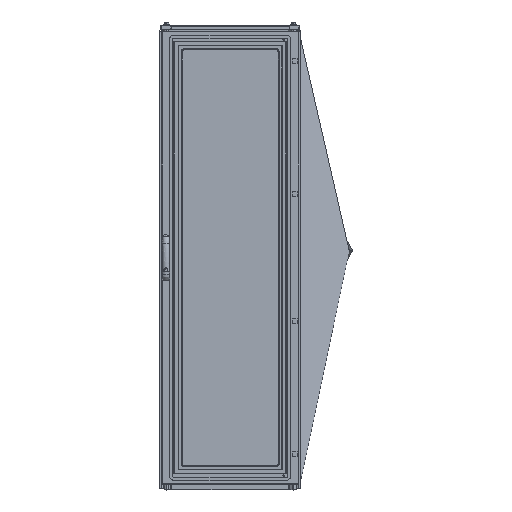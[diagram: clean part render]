
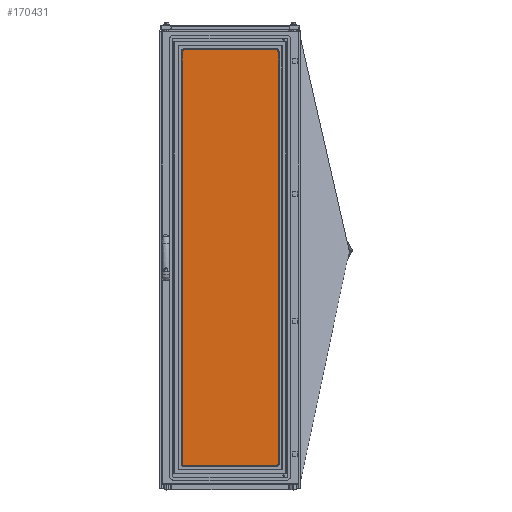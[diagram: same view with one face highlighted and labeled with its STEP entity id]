
A CAD part, top view. The second image highlights one B-rep face of the part: STEP entity #170431.
In plain terms, the highlighted planar face has unit normal (0, 0, 1).
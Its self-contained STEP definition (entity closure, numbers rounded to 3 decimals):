
#2545 = CARTESIAN_POINT ( 'NONE',  ( 0., -446., 4. ) ) ;
#4165 = VECTOR ( 'NONE', #127282, 1000. ) ;
#5899 = DIRECTION ( 'NONE',  ( 1., 0., 0. ) ) ;
#9518 = VERTEX_POINT ( 'NONE', #88323 ) ;
#23923 = FACE_OUTER_BOUND ( 'NONE', #232895, .T. ) ;
#27186 = CARTESIAN_POINT ( 'NONE',  ( 1831., 0., 4. ) ) ;
#34278 = EDGE_CURVE ( 'NONE', #125438, #255224, #81384, .T. ) ;
#53377 = DIRECTION ( 'NONE',  ( 0., 0., 1. ) ) ;
#55624 = VERTEX_POINT ( 'NONE', #87402 ) ;
#55625 = ORIENTED_EDGE ( 'NONE', *, *, #179129, .T. ) ;
#59120 = CARTESIAN_POINT ( 'NONE',  ( 0., -446., 4. ) ) ;
#62055 = ORIENTED_EDGE ( 'NONE', *, *, #248970, .T. ) ;
#62192 = DIRECTION ( 'NONE',  ( -1., 0., 0. ) ) ;
#81384 = LINE ( 'NONE', #230622, #100562 ) ;
#87402 = CARTESIAN_POINT ( 'NONE',  ( 1831., 0., 4. ) ) ;
#88323 = CARTESIAN_POINT ( 'NONE',  ( 0., 0., 4. ) ) ;
#91675 = VECTOR ( 'NONE', #324027, 1000. ) ;
#100562 = VECTOR ( 'NONE', #5899, 1000. ) ;
#109394 = ORIENTED_EDGE ( 'NONE', *, *, #218361, .T. ) ;
#125438 = VERTEX_POINT ( 'NONE', #59120 ) ;
#127282 = DIRECTION ( 'NONE',  ( 0., 1., 0. ) ) ;
#132848 = CARTESIAN_POINT ( 'NONE',  ( 0., 0., 4. ) ) ;
#146075 = VECTOR ( 'NONE', #62192, 1000. ) ;
#151648 = ORIENTED_EDGE ( 'NONE', *, *, #34278, .T. ) ;
#170431 = ADVANCED_FACE ( 'NONE', ( #23923 ), #301091, .T. ) ;
#174826 = LINE ( 'NONE', #224015, #91675 ) ;
#179129 = EDGE_CURVE ( 'NONE', #9518, #125438, #174826, .T. ) ;
#197755 = DIRECTION ( 'NONE',  ( 1., 0., 0. ) ) ;
#218361 = EDGE_CURVE ( 'NONE', #255224, #55624, #251898, .T. ) ;
#224015 = CARTESIAN_POINT ( 'NONE',  ( 0., 0., 4. ) ) ;
#230622 = CARTESIAN_POINT ( 'NONE',  ( 0., -446., 4. ) ) ;
#232895 = EDGE_LOOP ( 'NONE', ( #55625, #151648, #109394, #62055 ) ) ;
#246446 = CARTESIAN_POINT ( 'NONE',  ( 1831., -446., 4. ) ) ;
#248970 = EDGE_CURVE ( 'NONE', #55624, #9518, #262323, .T. ) ;
#251898 = LINE ( 'NONE', #27186, #4165 ) ;
#255224 = VERTEX_POINT ( 'NONE', #246446 ) ;
#262323 = LINE ( 'NONE', #132848, #146075 ) ;
#275054 = AXIS2_PLACEMENT_3D ( 'NONE', #2545, #53377, #197755 ) ;
#301091 = PLANE ( 'NONE',  #275054 ) ;
#324027 = DIRECTION ( 'NONE',  ( 0., -1., 0. ) ) ;
